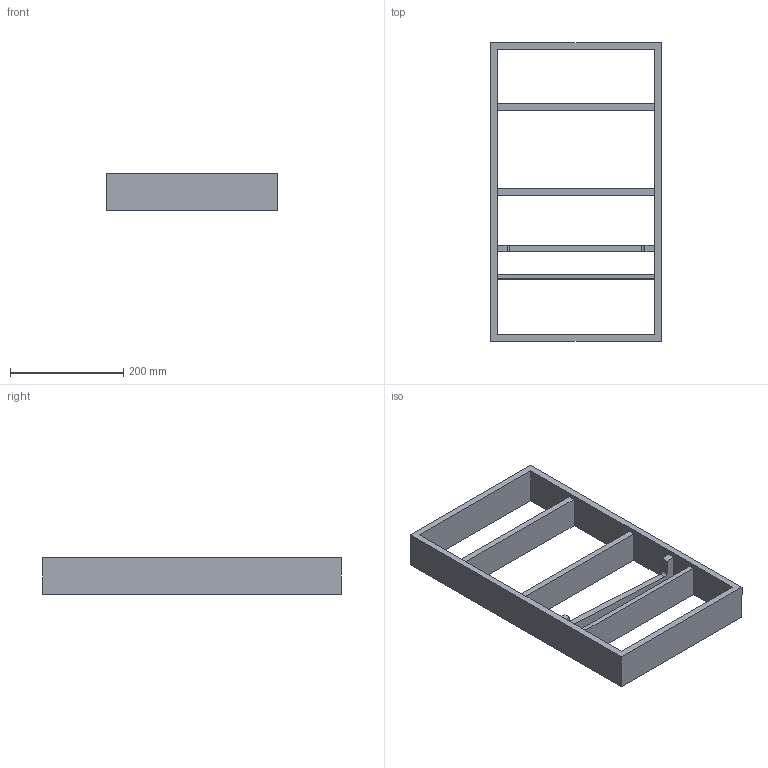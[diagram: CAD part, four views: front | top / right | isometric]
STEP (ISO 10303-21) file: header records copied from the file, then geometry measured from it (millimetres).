
FILE_DESCRIPTION (( 'STEP AP214' ), '1' );
FILE_NAME ('Vario Messer_Modul_H65_NL550_B400_19mm_Alu_Buche.step', '2010-10-07T06:11:50', ( 'grass' ), ( '' ), 'SwSTEP 2.0', 'SolidWorks 2010', '' );
FILE_SCHEMA (( 'AUTOMOTIVE_DESIGN' ));
Length unit declared in the file: millimetre
Products named in the file (1): Vario Messer_Modul_H65_NL550_B400_19mm_Alu_Buche
Bounding box: 302 x 529 x 65 mm (x, y, z)
Volume: 1880145.5 mm3; surface area: 382681.3 mm2
Topology: 1 solids, 1 shells, 28 faces, 90 edges, 60 vertices
Faces by surface type: plane 26, cylinder 2
Entity records: 1032 total; most frequent: ORIENTED_EDGE 180, CARTESIAN_POINT 179, DIRECTION 152, EDGE_CURVE 90, VECTOR 86, LINE 86, VERTEX_POINT 60, EDGE_LOOP 34
